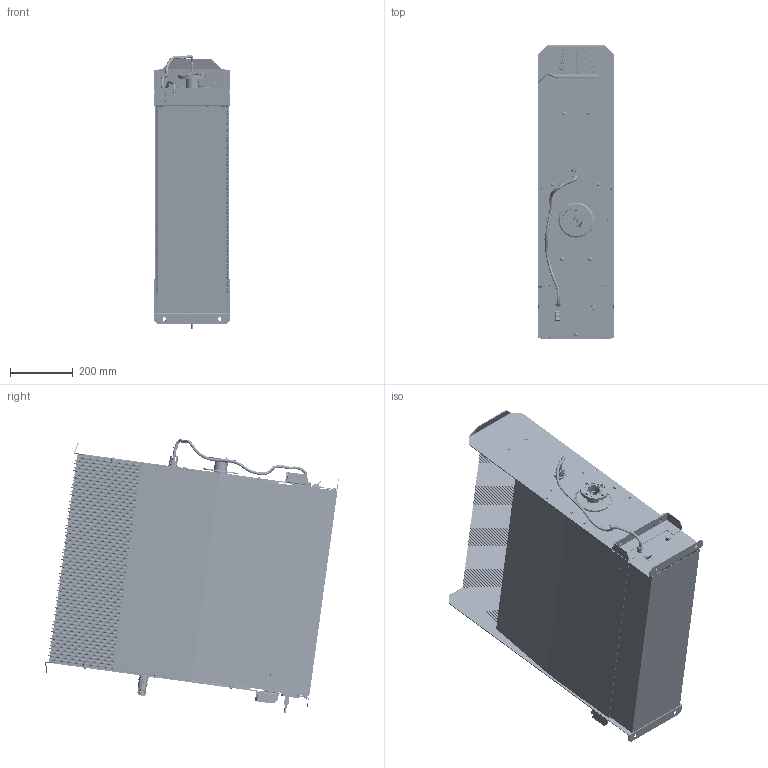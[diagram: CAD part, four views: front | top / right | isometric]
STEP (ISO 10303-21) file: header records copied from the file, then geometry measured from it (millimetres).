
FILE_DESCRIPTION( ( 'Unknown' ), '1' );
FILE_NAME( 'Q:/PROJECTS/Library of Standard Models/8932/8932-230-Rev N.stp', 'Unknown', ( 'Unknown' ), ( 'Unknown' ), 'PSStep 17.0.49', 'Unknown', ' ' );
FILE_SCHEMA( ( 'AUTOMOTIVE_DESIGN { 1 0 10303 214 1 1 1 1 }' ) );
Length unit declared in the file: inch
Products named in the file (1): 1
Bounding box: 241.62 x 934.83 x 872.79 mm (x, y, z)
Surface area: 12386160.4 mm2 (no closed solid volume)
Topology: 0 solids, 7983 shells, 7999 faces, 45536 edges, 44607 vertices
Faces by surface type: plane 4844, cylinder 2321, cone 314, bspline 307, torus 159, sphere 50, offset 3, revolution 1
Full cylindrical faces by diameter (mm): 1.143 x4, 1.427 x9, 2.032 x2, 2.113 x4, 2.156 x2, 2.578 x12, 2.616 x8, 2.845 x18, 3.048 x5, 3.264 x4, 3.277 x1, 3.556 x2, 3.81 x2, 3.967 x38, 4.039 x2, 4.14 x6, 4.166 x7, 4.216 x4, 4.648 x4, 4.775 x2, 4.826 x18, 5.105 x2, 5.262 x1, 5.283 x24, 5.334 x16, 5.385 x17, 5.41 x1, 5.474 x1, 5.556 x8, 5.563 x8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
Entity records: 571656 total; most frequent: CARTESIAN_POINT 191879, DIRECTION 63237, VERTEX_POINT 44164, ORIENTED_EDGE 44140, EDGE_CURVE 44140, LINE 24830, VECTOR 24830, AXIS2_PLACEMENT_3D 19201
